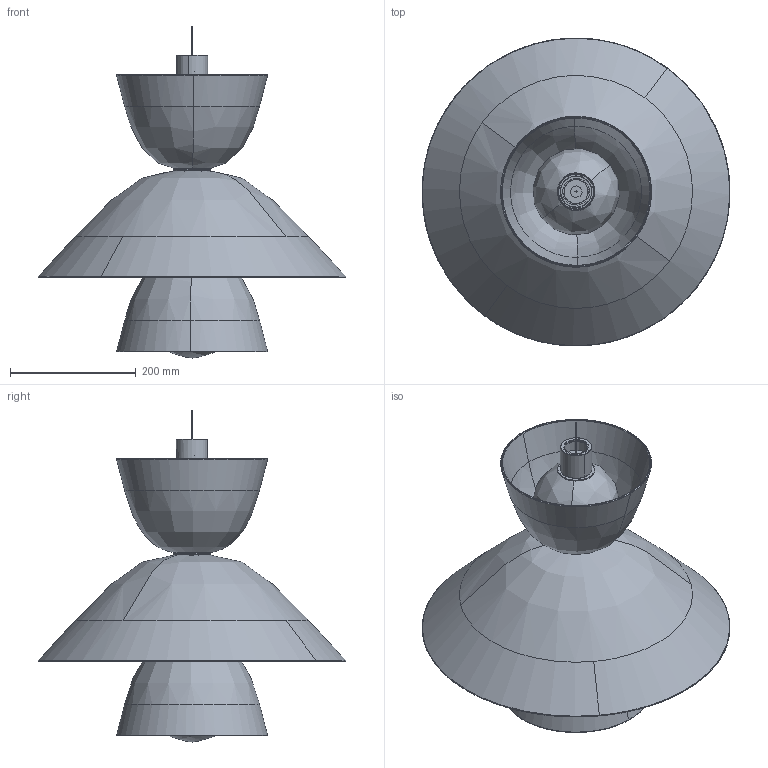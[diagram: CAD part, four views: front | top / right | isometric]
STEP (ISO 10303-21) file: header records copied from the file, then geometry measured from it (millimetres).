
FILE_DESCRIPTION(/* description */ (''),/* implementation_level */ '2;1');
FILE_NAME(/* name */ 'SEM.000226',/* time_stamp */ '2023-05-11T17:24:48+02:00',/* author */ (''),/* organization */ (''),/* preprocessor_version */ 'ST-DEVELOPER v16.5',/* originating_system */ 'Rhino 7.29',/* authorisation */ '');
FILE_SCHEMA (('CONFIG_CONTROL_DESIGN'));
Length unit declared in the file: millimetre
Products named in the file (10): Document; MET.006349; PLA.005260; MET.005642; VET.005135; VET.005127; PLA.005261; PLA.005262; VET.005123; VET.005125
Assembly tree (18 placements, depth 2):
  Document
    MET.006349
    PLA.005260
    MET.005642
    VET.005135
    VET.005127
    PLA.005261  x7
    PLA.005262  x3
    VET.005123  x2
    VET.005125
Bounding box: 489.9 x 489.85 x 528.34 mm (x, y, z)
Volume: 1437482.7 mm3; surface area: 1417725 mm2
Topology: 20 solids, 22 shells, 1035 faces, 2432 edges, 1370 vertices
Faces by surface type: bspline 824, cylinder 144, plane 67
Entity records: 17504 total; most frequent: CARTESIAN_POINT 12298, ORIENTED_EDGE 1420, EDGE_CURVE 714, VERTEX_POINT 452, EDGE_LOOP 328, ADVANCED_FACE 299, FACE_OUTER_BOUND 299, B_SPLINE_CURVE_WITH_KNOTS 202
